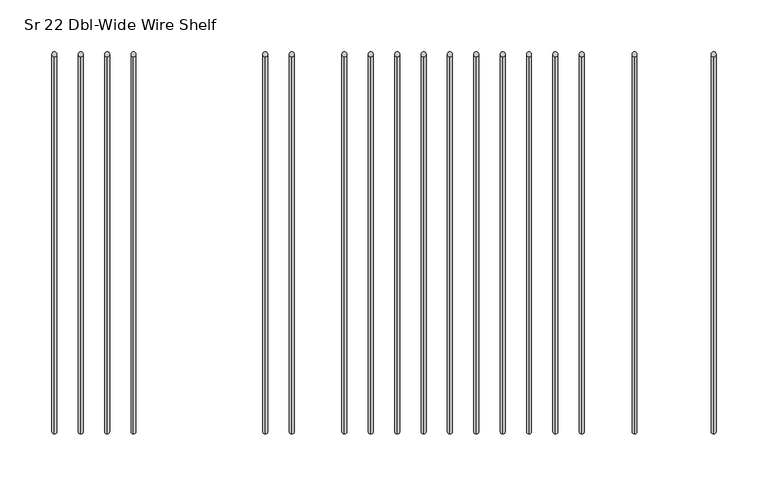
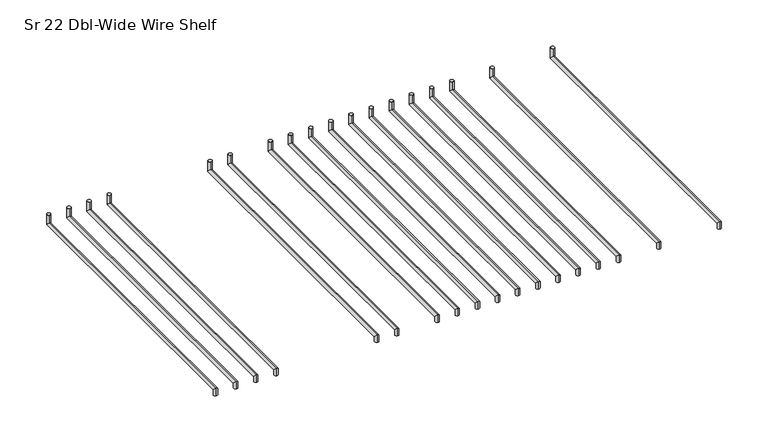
"""IFC4 building model written with IfcOpenShell, lengths in millimetres: furniture geometry, HermanMiller_Carts_CT521_CartShelf : Sr 22 Dbl-Wide Wire Shelf."""

from ifc_helpers import new_model, si_unit, frame, origin, place, context, project, spatial, circle_curve, ellipse_curve, source, transform, mapped, element, save
from ifc_brep_helpers import plane_surface, cylinder_surface, advanced_brep


def sr_22_dbl_wide_wire_shelf_5f0abe7a(model_context):
    return source(origin(), model_context, "Body", "AdvancedBrep", [
        advanced_brep(
        [(358.5223083, -206.38135, 2224.6971), (358.5223083, -211.14385, 2224.6971), (358.5223083, -206.38135, 2229.4596), (358.5223083, -211.14385, 2234.2221), (358.5223083, 157.2983379, 2229.4596), (358.5223083, 152.5358379, 2234.2221), (358.5223083, 157.2983379, 2244.7377), (358.5223083, 152.5358379, 2244.7377)],
        [
            (0, 1, circle_curve(frame((358.5223083, -208.7626, 2224.6971), z_axis=(0.0, 0.0, -1.0), x_axis=(0.0, -1.0, 0.0)), 2.38125)),
            (1, 0, circle_curve(frame((358.5223083, -208.7626, 2224.6971), z_axis=(0.0, 0.0, -1.0), x_axis=(0.0, -1.0, 0.0)), 2.38125)),
            (0, 2),
            (2, 3, ellipse_curve(frame((358.5223083, -208.7626, 2231.84085), z_axis=(0.0, -0.7071067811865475, -0.7071067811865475), x_axis=(0.0, 0.7071067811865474, -0.7071067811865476)), 3.367596, 2.38125)),
            (3, 1),
            (3, 2, ellipse_curve(frame((358.5223083, -208.7626, 2231.84085), z_axis=(0.0, -0.7071067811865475, -0.7071067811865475), x_axis=(0.0, 0.7071067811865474, -0.7071067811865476)), 3.367596, 2.38125)),
            (2, 4),
            (4, 5, ellipse_curve(frame((358.5223083, 154.9170879, 2231.84085), z_axis=(0.0, -0.7071067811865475, -0.7071067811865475), x_axis=(0.0, -0.7071067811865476, 0.7071067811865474)), 3.367596, 2.38125)),
            (5, 3),
            (5, 4, ellipse_curve(frame((358.5223083, 154.9170879, 2231.84085), z_axis=(0.0, -0.7071067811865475, -0.7071067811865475), x_axis=(0.0, -0.7071067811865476, 0.7071067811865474)), 3.367596, 2.38125)),
            (6, 7, circle_curve(frame((358.5223083, 154.9170879, 2244.7377), z_axis=(0.0, 0.0, 1.0), x_axis=(0.0, -1.0, 0.0)), 2.38125)),
            (7, 6, circle_curve(frame((358.5223083, 154.9170879, 2244.7377), z_axis=(0.0, 0.0, 1.0), x_axis=(0.0, -1.0, 0.0)), 2.38125)),
            (4, 6),
            (7, 5),
        ],
        [
            plane_surface(frame((358.5223083, -208.7626, 2224.6971), z_axis=(0.0, 0.0, -1.0), x_axis=(1.0, 0.0, 0.0))),
            cylinder_surface(frame((358.5223083, -208.7626, 2224.6971), z_axis=(0.0, 0.0, -1.0), x_axis=(0.0, -1.0, 0.0)), 2.38125),
            cylinder_surface(frame((358.5223083, -208.7626, 2231.84085), z_axis=(0.0, -1.0, 0.0), x_axis=(0.0, 0.0, 1.0)), 2.38125),
            plane_surface(frame((358.5223083, 154.9170879, 2244.7377), z_axis=(0.0, 0.0, 1.0), x_axis=(1.0, 0.0, 0.0))),
            cylinder_surface(frame((358.5223083, 154.9170879, 2231.84085), z_axis=(0.0, 0.0, -1.0), x_axis=(0.0, -1.0, 0.0)), 2.38125),
        ],
        [
            (0, [[1, 2]]),
            (1, [[-1, 3, 4, 5]]),
            (1, [[-2, -5, 6, -3]]),
            (2, [[-4, 7, 8, 9]]),
            (2, [[-6, -9, 10, -7]]),
            (3, [[11, 12]]),
            (4, [[-8, 13, -12, 14]]),
            (4, [[-10, -14, -11, -13]]),
        ],
    ),
        advanced_brep(
        [(282.3223083, -206.38135, 2224.6971), (282.3223083, -211.14385, 2224.6971), (282.3223083, -206.38135, 2229.4596), (282.3223083, -211.14385, 2234.2221), (282.3223083, 157.2983379, 2229.4596), (282.3223083, 152.5358379, 2234.2221), (282.3223083, 157.2983379, 2244.7377), (282.3223083, 152.5358379, 2244.7377)],
        [
            (0, 1, circle_curve(frame((282.3223083, -208.7626, 2224.6971), z_axis=(0.0, 0.0, -1.0), x_axis=(0.0, -1.0, 0.0)), 2.38125)),
            (1, 0, circle_curve(frame((282.3223083, -208.7626, 2224.6971), z_axis=(0.0, 0.0, -1.0), x_axis=(0.0, -1.0, 0.0)), 2.38125)),
            (0, 2),
            (2, 3, ellipse_curve(frame((282.3223083, -208.7626, 2231.84085), z_axis=(0.0, -0.7071067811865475, -0.7071067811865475), x_axis=(0.0, 0.7071067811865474, -0.7071067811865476)), 3.367596, 2.38125)),
            (3, 1),
            (3, 2, ellipse_curve(frame((282.3223083, -208.7626, 2231.84085), z_axis=(0.0, -0.7071067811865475, -0.7071067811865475), x_axis=(0.0, 0.7071067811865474, -0.7071067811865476)), 3.367596, 2.38125)),
            (2, 4),
            (4, 5, ellipse_curve(frame((282.3223083, 154.9170879, 2231.84085), z_axis=(0.0, -0.7071067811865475, -0.7071067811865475), x_axis=(0.0, -0.7071067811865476, 0.7071067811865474)), 3.367596, 2.38125)),
            (5, 3),
            (5, 4, ellipse_curve(frame((282.3223083, 154.9170879, 2231.84085), z_axis=(0.0, -0.7071067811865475, -0.7071067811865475), x_axis=(0.0, -0.7071067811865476, 0.7071067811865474)), 3.367596, 2.38125)),
            (6, 7, circle_curve(frame((282.3223083, 154.9170879, 2244.7377), z_axis=(0.0, 0.0, 1.0), x_axis=(0.0, -1.0, 0.0)), 2.38125)),
            (7, 6, circle_curve(frame((282.3223083, 154.9170879, 2244.7377), z_axis=(0.0, 0.0, 1.0), x_axis=(0.0, -1.0, 0.0)), 2.38125)),
            (4, 6),
            (7, 5),
        ],
        [
            plane_surface(frame((282.3223083, -208.7626, 2224.6971), z_axis=(0.0, 0.0, -1.0), x_axis=(1.0, 0.0, 0.0))),
            cylinder_surface(frame((282.3223083, -208.7626, 2224.6971), z_axis=(0.0, 0.0, -1.0), x_axis=(0.0, -1.0, 0.0)), 2.38125),
            cylinder_surface(frame((282.3223083, -208.7626, 2231.84085), z_axis=(0.0, -1.0, 0.0), x_axis=(0.0, 0.0, 1.0)), 2.38125),
            plane_surface(frame((282.3223083, 154.9170879, 2244.7377), z_axis=(0.0, 0.0, 1.0), x_axis=(1.0, 0.0, 0.0))),
            cylinder_surface(frame((282.3223083, 154.9170879, 2231.84085), z_axis=(0.0, 0.0, -1.0), x_axis=(0.0, -1.0, 0.0)), 2.38125),
        ],
        [
            (0, [[1, 2]]),
            (1, [[-1, 3, 4, 5]]),
            (1, [[-2, -5, 6, -3]]),
            (2, [[-4, 7, 8, 9]]),
            (2, [[-6, -9, 10, -7]]),
            (3, [[11, 12]]),
            (4, [[-8, 13, -12, 14]]),
            (4, [[-10, -14, -11, -13]]),
        ],
    ),
        advanced_brep(
        [(28.3223083, -206.38135, 2224.6971), (28.3223083, -211.14385, 2224.6971), (28.3223083, -206.38135, 2229.4596), (28.3223083, -211.14385, 2234.2221), (28.3223083, 157.2983379, 2229.4596), (28.3223083, 152.5358379, 2234.2221), (28.3223083, 157.2983379, 2244.7377), (28.3223083, 152.5358379, 2244.7377)],
        [
            (0, 1, circle_curve(frame((28.3223083, -208.7626, 2224.6971), z_axis=(0.0, 0.0, -1.0), x_axis=(0.0, -1.0, 0.0)), 2.38125)),
            (1, 0, circle_curve(frame((28.3223083, -208.7626, 2224.6971), z_axis=(0.0, 0.0, -1.0), x_axis=(0.0, -1.0, 0.0)), 2.38125)),
            (0, 2),
            (2, 3, ellipse_curve(frame((28.3223083, -208.7626, 2231.84085), z_axis=(0.0, -0.7071067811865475, -0.7071067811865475), x_axis=(0.0, 0.7071067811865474, -0.7071067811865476)), 3.367596, 2.38125)),
            (3, 1),
            (3, 2, ellipse_curve(frame((28.3223083, -208.7626, 2231.84085), z_axis=(0.0, -0.7071067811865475, -0.7071067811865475), x_axis=(0.0, 0.7071067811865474, -0.7071067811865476)), 3.367596, 2.38125)),
            (2, 4),
            (4, 5, ellipse_curve(frame((28.3223083, 154.9170879, 2231.84085), z_axis=(0.0, -0.7071067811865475, -0.7071067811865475), x_axis=(0.0, -0.7071067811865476, 0.7071067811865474)), 3.367596, 2.38125)),
            (5, 3),
            (5, 4, ellipse_curve(frame((28.3223083, 154.9170879, 2231.84085), z_axis=(0.0, -0.7071067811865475, -0.7071067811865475), x_axis=(0.0, -0.7071067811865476, 0.7071067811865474)), 3.367596, 2.38125)),
            (6, 7, circle_curve(frame((28.3223083, 154.9170879, 2244.7377), z_axis=(0.0, 0.0, 1.0), x_axis=(0.0, -1.0, 0.0)), 2.38125)),
            (7, 6, circle_curve(frame((28.3223083, 154.9170879, 2244.7377), z_axis=(0.0, 0.0, 1.0), x_axis=(0.0, -1.0, 0.0)), 2.38125)),
            (4, 6),
            (7, 5),
        ],
        [
            plane_surface(frame((28.3223083, -208.7626, 2224.6971), z_axis=(0.0, 0.0, -1.0), x_axis=(1.0, 0.0, 0.0))),
            cylinder_surface(frame((28.3223083, -208.7626, 2224.6971), z_axis=(0.0, 0.0, -1.0), x_axis=(0.0, -1.0, 0.0)), 2.38125),
            cylinder_surface(frame((28.3223083, -208.7626, 2231.84085), z_axis=(0.0, -1.0, 0.0), x_axis=(0.0, 0.0, 1.0)), 2.38125),
            plane_surface(frame((28.3223083, 154.9170879, 2244.7377), z_axis=(0.0, 0.0, 1.0), x_axis=(1.0, 0.0, 0.0))),
            cylinder_surface(frame((28.3223083, 154.9170879, 2231.84085), z_axis=(0.0, 0.0, -1.0), x_axis=(0.0, -1.0, 0.0)), 2.38125),
        ],
        [
            (0, [[1, 2]]),
            (1, [[-1, 3, 4, 5]]),
            (1, [[-2, -5, 6, -3]]),
            (2, [[-4, 7, 8, 9]]),
            (2, [[-6, -9, 10, -7]]),
            (3, [[11, 12]]),
            (4, [[-8, 13, -12, 14]]),
            (4, [[-10, -14, -11, -13]]),
        ],
    ),
        advanced_brep(
        [(-47.8776917, -206.38135, 2224.6971), (-47.8776917, -211.14385, 2224.6971), (-47.8776917, -206.38135, 2229.4596), (-47.8776917, -211.14385, 2234.2221), (-47.8776917, 157.2983379, 2229.4596), (-47.8776917, 152.5358379, 2234.2221), (-47.8776917, 157.2983379, 2244.7377), (-47.8776917, 152.5358379, 2244.7377)],
        [
            (0, 1, circle_curve(frame((-47.8776917, -208.7626, 2224.6971), z_axis=(0.0, 0.0, -1.0), x_axis=(0.0, -1.0, 0.0)), 2.38125)),
            (1, 0, circle_curve(frame((-47.8776917, -208.7626, 2224.6971), z_axis=(0.0, 0.0, -1.0), x_axis=(0.0, -1.0, 0.0)), 2.38125)),
            (0, 2),
            (2, 3, ellipse_curve(frame((-47.8776917, -208.7626, 2231.84085), z_axis=(0.0, -0.7071067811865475, -0.7071067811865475), x_axis=(0.0, 0.7071067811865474, -0.7071067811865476)), 3.367596, 2.38125)),
            (3, 1),
            (3, 2, ellipse_curve(frame((-47.8776917, -208.7626, 2231.84085), z_axis=(0.0, -0.7071067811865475, -0.7071067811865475), x_axis=(0.0, 0.7071067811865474, -0.7071067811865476)), 3.367596, 2.38125)),
            (2, 4),
            (4, 5, ellipse_curve(frame((-47.8776917, 154.9170879, 2231.84085), z_axis=(0.0, -0.7071067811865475, -0.7071067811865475), x_axis=(0.0, -0.7071067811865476, 0.7071067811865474)), 3.367596, 2.38125)),
            (5, 3),
            (5, 4, ellipse_curve(frame((-47.8776917, 154.9170879, 2231.84085), z_axis=(0.0, -0.7071067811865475, -0.7071067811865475), x_axis=(0.0, -0.7071067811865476, 0.7071067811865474)), 3.367596, 2.38125)),
            (6, 7, circle_curve(frame((-47.8776917, 154.9170879, 2244.7377), z_axis=(0.0, 0.0, 1.0), x_axis=(0.0, -1.0, 0.0)), 2.38125)),
            (7, 6, circle_curve(frame((-47.8776917, 154.9170879, 2244.7377), z_axis=(0.0, 0.0, 1.0), x_axis=(0.0, -1.0, 0.0)), 2.38125)),
            (4, 6),
            (7, 5),
        ],
        [
            plane_surface(frame((-47.8776917, -208.7626, 2224.6971), z_axis=(0.0, 0.0, -1.0), x_axis=(1.0, 0.0, 0.0))),
            cylinder_surface(frame((-47.8776917, -208.7626, 2224.6971), z_axis=(0.0, 0.0, -1.0), x_axis=(0.0, -1.0, 0.0)), 2.38125),
            cylinder_surface(frame((-47.8776917, -208.7626, 2231.84085), z_axis=(0.0, -1.0, 0.0), x_axis=(0.0, 0.0, 1.0)), 2.38125),
            plane_surface(frame((-47.8776917, 154.9170879, 2244.7377), z_axis=(0.0, 0.0, 1.0), x_axis=(1.0, 0.0, 0.0))),
            cylinder_surface(frame((-47.8776917, 154.9170879, 2231.84085), z_axis=(0.0, 0.0, -1.0), x_axis=(0.0, -1.0, 0.0)), 2.38125),
        ],
        [
            (0, [[1, 2]]),
            (1, [[-1, 3, 4, 5]]),
            (1, [[-2, -5, 6, -3]]),
            (2, [[-4, 7, 8, 9]]),
            (2, [[-6, -9, 10, -7]]),
            (3, [[11, 12]]),
            (4, [[-8, 13, -12, 14]]),
            (4, [[-10, -14, -11, -13]]),
        ],
    ),
        advanced_brep(
        [(-73.2776917, -206.38135, 2224.6971), (-73.2776917, -211.14385, 2224.6971), (-73.2776917, -206.38135, 2229.4596), (-73.2776917, -211.14385, 2234.2221), (-73.2776917, 157.2983379, 2229.4596), (-73.2776917, 152.5358379, 2234.2221), (-73.2776917, 157.2983379, 2244.7377), (-73.2776917, 152.5358379, 2244.7377)],
        [
            (0, 1, circle_curve(frame((-73.2776917, -208.7626, 2224.6971), z_axis=(0.0, 0.0, -1.0), x_axis=(0.0, -1.0, 0.0)), 2.38125)),
            (1, 0, circle_curve(frame((-73.2776917, -208.7626, 2224.6971), z_axis=(0.0, 0.0, -1.0), x_axis=(0.0, -1.0, 0.0)), 2.38125)),
            (0, 2),
            (2, 3, ellipse_curve(frame((-73.2776917, -208.7626, 2231.84085), z_axis=(0.0, -0.7071067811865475, -0.7071067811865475), x_axis=(0.0, 0.7071067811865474, -0.7071067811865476)), 3.367596, 2.38125)),
            (3, 1),
            (3, 2, ellipse_curve(frame((-73.2776917, -208.7626, 2231.84085), z_axis=(0.0, -0.7071067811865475, -0.7071067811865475), x_axis=(0.0, 0.7071067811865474, -0.7071067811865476)), 3.367596, 2.38125)),
            (2, 4),
            (4, 5, ellipse_curve(frame((-73.2776917, 154.9170879, 2231.84085), z_axis=(0.0, -0.7071067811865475, -0.7071067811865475), x_axis=(0.0, -0.7071067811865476, 0.7071067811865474)), 3.367596, 2.38125)),
            (5, 3),
            (5, 4, ellipse_curve(frame((-73.2776917, 154.9170879, 2231.84085), z_axis=(0.0, -0.7071067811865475, -0.7071067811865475), x_axis=(0.0, -0.7071067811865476, 0.7071067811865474)), 3.367596, 2.38125)),
            (6, 7, circle_curve(frame((-73.2776917, 154.9170879, 2244.7377), z_axis=(0.0, 0.0, 1.0), x_axis=(0.0, -1.0, 0.0)), 2.38125)),
            (7, 6, circle_curve(frame((-73.2776917, 154.9170879, 2244.7377), z_axis=(0.0, 0.0, 1.0), x_axis=(0.0, -1.0, 0.0)), 2.38125)),
            (4, 6),
            (7, 5),
        ],
        [
            plane_surface(frame((-73.2776917, -208.7626, 2224.6971), z_axis=(0.0, 0.0, -1.0), x_axis=(1.0, 0.0, 0.0))),
            cylinder_surface(frame((-73.2776917, -208.7626, 2224.6971), z_axis=(0.0, 0.0, -1.0), x_axis=(0.0, -1.0, 0.0)), 2.38125),
            cylinder_surface(frame((-73.2776917, -208.7626, 2231.84085), z_axis=(0.0, -1.0, 0.0), x_axis=(0.0, 0.0, 1.0)), 2.38125),
            plane_surface(frame((-73.2776917, 154.9170879, 2244.7377), z_axis=(0.0, 0.0, 1.0), x_axis=(1.0, 0.0, 0.0))),
            cylinder_surface(frame((-73.2776917, 154.9170879, 2231.84085), z_axis=(0.0, 0.0, -1.0), x_axis=(0.0, -1.0, 0.0)), 2.38125),
        ],
        [
            (0, [[1, 2]]),
            (1, [[-1, 3, 4, 5]]),
            (1, [[-2, -5, 6, -3]]),
            (2, [[-4, 7, 8, 9]]),
            (2, [[-6, -9, 10, -7]]),
            (3, [[11, 12]]),
            (4, [[-8, 13, -12, 14]]),
            (4, [[-10, -14, -11, -13]]),
        ],
    ),
        advanced_brep(
        [(2.9223083, -206.38135, 2224.6971), (2.9223083, -211.14385, 2224.6971), (2.9223083, -206.38135, 2229.4596), (2.9223083, -211.14385, 2234.2221), (2.9223083, 157.2983379, 2229.4596), (2.9223083, 152.5358379, 2234.2221), (2.9223083, 157.2983379, 2244.7377), (2.9223083, 152.5358379, 2244.7377)],
        [
            (0, 1, circle_curve(frame((2.9223083, -208.7626, 2224.6971), z_axis=(0.0, 0.0, -1.0), x_axis=(0.0, -1.0, 0.0)), 2.38125)),
            (1, 0, circle_curve(frame((2.9223083, -208.7626, 2224.6971), z_axis=(0.0, 0.0, -1.0), x_axis=(0.0, -1.0, 0.0)), 2.38125)),
            (0, 2),
            (2, 3, ellipse_curve(frame((2.9223083, -208.7626, 2231.84085), z_axis=(0.0, -0.7071067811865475, -0.7071067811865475), x_axis=(0.0, 0.7071067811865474, -0.7071067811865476)), 3.367596, 2.38125)),
            (3, 1),
            (3, 2, ellipse_curve(frame((2.9223083, -208.7626, 2231.84085), z_axis=(0.0, -0.7071067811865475, -0.7071067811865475), x_axis=(0.0, 0.7071067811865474, -0.7071067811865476)), 3.367596, 2.38125)),
            (2, 4),
            (4, 5, ellipse_curve(frame((2.9223083, 154.9170879, 2231.84085), z_axis=(0.0, -0.7071067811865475, -0.7071067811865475), x_axis=(0.0, -0.7071067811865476, 0.7071067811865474)), 3.367596, 2.38125)),
            (5, 3),
            (5, 4, ellipse_curve(frame((2.9223083, 154.9170879, 2231.84085), z_axis=(0.0, -0.7071067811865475, -0.7071067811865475), x_axis=(0.0, -0.7071067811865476, 0.7071067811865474)), 3.367596, 2.38125)),
            (6, 7, circle_curve(frame((2.9223083, 154.9170879, 2244.7377), z_axis=(0.0, 0.0, 1.0), x_axis=(0.0, -1.0, 0.0)), 2.38125)),
            (7, 6, circle_curve(frame((2.9223083, 154.9170879, 2244.7377), z_axis=(0.0, 0.0, 1.0), x_axis=(0.0, -1.0, 0.0)), 2.38125)),
            (4, 6),
            (7, 5),
        ],
        [
            plane_surface(frame((2.9223083, -208.7626, 2224.6971), z_axis=(0.0, 0.0, -1.0), x_axis=(1.0, 0.0, 0.0))),
            cylinder_surface(frame((2.9223083, -208.7626, 2224.6971), z_axis=(0.0, 0.0, -1.0), x_axis=(0.0, -1.0, 0.0)), 2.38125),
            cylinder_surface(frame((2.9223083, -208.7626, 2231.84085), z_axis=(0.0, -1.0, 0.0), x_axis=(0.0, 0.0, 1.0)), 2.38125),
            plane_surface(frame((2.9223083, 154.9170879, 2244.7377), z_axis=(0.0, 0.0, 1.0), x_axis=(1.0, 0.0, 0.0))),
            cylinder_surface(frame((2.9223083, 154.9170879, 2231.84085), z_axis=(0.0, 0.0, -1.0), x_axis=(0.0, -1.0, 0.0)), 2.38125),
        ],
        [
            (0, [[1, 2]]),
            (1, [[-1, 3, 4, 5]]),
            (1, [[-2, -5, 6, -3]]),
            (2, [[-4, 7, 8, 9]]),
            (2, [[-6, -9, 10, -7]]),
            (3, [[11, 12]]),
            (4, [[-8, 13, -12, 14]]),
            (4, [[-10, -14, -11, -13]]),
        ],
    ),
        advanced_brep(
        [(53.7223083, -206.38135, 2224.6971), (53.7223083, -211.14385, 2224.6971), (53.7223083, -206.38135, 2229.4596), (53.7223083, -211.14385, 2234.2221), (53.7223083, 157.2983379, 2229.4596), (53.7223083, 152.5358379, 2234.2221), (53.7223083, 157.2983379, 2244.7377), (53.7223083, 152.5358379, 2244.7377)],
        [
            (0, 1, circle_curve(frame((53.7223083, -208.7626, 2224.6971), z_axis=(0.0, 0.0, -1.0), x_axis=(0.0, -1.0, 0.0)), 2.38125)),
            (1, 0, circle_curve(frame((53.7223083, -208.7626, 2224.6971), z_axis=(0.0, 0.0, -1.0), x_axis=(0.0, -1.0, 0.0)), 2.38125)),
            (0, 2),
            (2, 3, ellipse_curve(frame((53.7223083, -208.7626, 2231.84085), z_axis=(0.0, -0.7071067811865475, -0.7071067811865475), x_axis=(0.0, 0.7071067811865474, -0.7071067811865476)), 3.367596, 2.38125)),
            (3, 1),
            (3, 2, ellipse_curve(frame((53.7223083, -208.7626, 2231.84085), z_axis=(0.0, -0.7071067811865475, -0.7071067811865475), x_axis=(0.0, 0.7071067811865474, -0.7071067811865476)), 3.367596, 2.38125)),
            (2, 4),
            (4, 5, ellipse_curve(frame((53.7223083, 154.9170879, 2231.84085), z_axis=(0.0, -0.7071067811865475, -0.7071067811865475), x_axis=(0.0, -0.7071067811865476, 0.7071067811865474)), 3.367596, 2.38125)),
            (5, 3),
            (5, 4, ellipse_curve(frame((53.7223083, 154.9170879, 2231.84085), z_axis=(0.0, -0.7071067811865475, -0.7071067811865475), x_axis=(0.0, -0.7071067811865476, 0.7071067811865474)), 3.367596, 2.38125)),
            (6, 7, circle_curve(frame((53.7223083, 154.9170879, 2244.7377), z_axis=(0.0, 0.0, 1.0), x_axis=(0.0, -1.0, 0.0)), 2.38125)),
            (7, 6, circle_curve(frame((53.7223083, 154.9170879, 2244.7377), z_axis=(0.0, 0.0, 1.0), x_axis=(0.0, -1.0, 0.0)), 2.38125)),
            (4, 6),
            (7, 5),
        ],
        [
            plane_surface(frame((53.7223083, -208.7626, 2224.6971), z_axis=(0.0, 0.0, -1.0), x_axis=(1.0, 0.0, 0.0))),
            cylinder_surface(frame((53.7223083, -208.7626, 2224.6971), z_axis=(0.0, 0.0, -1.0), x_axis=(0.0, -1.0, 0.0)), 2.38125),
            cylinder_surface(frame((53.7223083, -208.7626, 2231.84085), z_axis=(0.0, -1.0, 0.0), x_axis=(0.0, 0.0, 1.0)), 2.38125),
            plane_surface(frame((53.7223083, 154.9170879, 2244.7377), z_axis=(0.0, 0.0, 1.0), x_axis=(1.0, 0.0, 0.0))),
            cylinder_surface(frame((53.7223083, 154.9170879, 2231.84085), z_axis=(0.0, 0.0, -1.0), x_axis=(0.0, -1.0, 0.0)), 2.38125),
        ],
        [
            (0, [[1, 2]]),
            (1, [[-1, 3, 4, 5]]),
            (1, [[-2, -5, 6, -3]]),
            (2, [[-4, 7, 8, 9]]),
            (2, [[-6, -9, 10, -7]]),
            (3, [[11, 12]]),
            (4, [[-8, 13, -12, 14]]),
            (4, [[-10, -14, -11, -13]]),
        ],
    ),
        advanced_brep(
        [(79.1223083, -206.38135, 2224.6971), (79.1223083, -211.14385, 2224.6971), (79.1223083, -206.38135, 2229.4596), (79.1223083, -211.14385, 2234.2221), (79.1223083, 157.2983379, 2229.4596), (79.1223083, 152.5358379, 2234.2221), (79.1223083, 157.2983379, 2244.7377), (79.1223083, 152.5358379, 2244.7377)],
        [
            (0, 1, circle_curve(frame((79.1223083, -208.7626, 2224.6971), z_axis=(0.0, 0.0, -1.0), x_axis=(0.0, -1.0, 0.0)), 2.38125)),
            (1, 0, circle_curve(frame((79.1223083, -208.7626, 2224.6971), z_axis=(0.0, 0.0, -1.0), x_axis=(0.0, -1.0, 0.0)), 2.38125)),
            (0, 2),
            (2, 3, ellipse_curve(frame((79.1223083, -208.7626, 2231.84085), z_axis=(0.0, -0.7071067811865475, -0.7071067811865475), x_axis=(0.0, 0.7071067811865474, -0.7071067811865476)), 3.367596, 2.38125)),
            (3, 1),
            (3, 2, ellipse_curve(frame((79.1223083, -208.7626, 2231.84085), z_axis=(0.0, -0.7071067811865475, -0.7071067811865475), x_axis=(0.0, 0.7071067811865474, -0.7071067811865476)), 3.367596, 2.38125)),
            (2, 4),
            (4, 5, ellipse_curve(frame((79.1223083, 154.9170879, 2231.84085), z_axis=(0.0, -0.7071067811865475, -0.7071067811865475), x_axis=(0.0, -0.7071067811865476, 0.7071067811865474)), 3.367596, 2.38125)),
            (5, 3),
            (5, 4, ellipse_curve(frame((79.1223083, 154.9170879, 2231.84085), z_axis=(0.0, -0.7071067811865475, -0.7071067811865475), x_axis=(0.0, -0.7071067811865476, 0.7071067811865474)), 3.367596, 2.38125)),
            (6, 7, circle_curve(frame((79.1223083, 154.9170879, 2244.7377), z_axis=(0.0, 0.0, 1.0), x_axis=(0.0, -1.0, 0.0)), 2.38125)),
            (7, 6, circle_curve(frame((79.1223083, 154.9170879, 2244.7377), z_axis=(0.0, 0.0, 1.0), x_axis=(0.0, -1.0, 0.0)), 2.38125)),
            (4, 6),
            (7, 5),
        ],
        [
            plane_surface(frame((79.1223083, -208.7626, 2224.6971), z_axis=(0.0, 0.0, -1.0), x_axis=(1.0, 0.0, 0.0))),
            cylinder_surface(frame((79.1223083, -208.7626, 2224.6971), z_axis=(0.0, 0.0, -1.0), x_axis=(0.0, -1.0, 0.0)), 2.38125),
            cylinder_surface(frame((79.1223083, -208.7626, 2231.84085), z_axis=(0.0, -1.0, 0.0), x_axis=(0.0, 0.0, 1.0)), 2.38125),
            plane_surface(frame((79.1223083, 154.9170879, 2244.7377), z_axis=(0.0, 0.0, 1.0), x_axis=(1.0, 0.0, 0.0))),
            cylinder_surface(frame((79.1223083, 154.9170879, 2231.84085), z_axis=(0.0, 0.0, -1.0), x_axis=(0.0, -1.0, 0.0)), 2.38125),
        ],
        [
            (0, [[1, 2]]),
            (1, [[-1, 3, 4, 5]]),
            (1, [[-2, -5, 6, -3]]),
            (2, [[-4, 7, 8, 9]]),
            (2, [[-6, -9, 10, -7]]),
            (3, [[11, 12]]),
            (4, [[-8, 13, -12, 14]]),
            (4, [[-10, -14, -11, -13]]),
        ],
    ),
        advanced_brep(
        [(104.5223083, -206.38135, 2224.6971), (104.5223083, -211.14385, 2224.6971), (104.5223083, -206.38135, 2229.4596), (104.5223083, -211.14385, 2234.2221), (104.5223083, 157.2983379, 2229.4596), (104.5223083, 152.5358379, 2234.2221), (104.5223083, 157.2983379, 2244.7377), (104.5223083, 152.5358379, 2244.7377)],
        [
            (0, 1, circle_curve(frame((104.5223083, -208.7626, 2224.6971), z_axis=(0.0, 0.0, -1.0), x_axis=(0.0, -1.0, 0.0)), 2.38125)),
            (1, 0, circle_curve(frame((104.5223083, -208.7626, 2224.6971), z_axis=(0.0, 0.0, -1.0), x_axis=(0.0, -1.0, 0.0)), 2.38125)),
            (0, 2),
            (2, 3, ellipse_curve(frame((104.5223083, -208.7626, 2231.84085), z_axis=(0.0, -0.7071067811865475, -0.7071067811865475), x_axis=(0.0, 0.7071067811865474, -0.7071067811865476)), 3.367596, 2.38125)),
            (3, 1),
            (3, 2, ellipse_curve(frame((104.5223083, -208.7626, 2231.84085), z_axis=(0.0, -0.7071067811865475, -0.7071067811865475), x_axis=(0.0, 0.7071067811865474, -0.7071067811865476)), 3.367596, 2.38125)),
            (2, 4),
            (4, 5, ellipse_curve(frame((104.5223083, 154.9170879, 2231.84085), z_axis=(0.0, -0.7071067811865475, -0.7071067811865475), x_axis=(0.0, -0.7071067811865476, 0.7071067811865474)), 3.367596, 2.38125)),
            (5, 3),
            (5, 4, ellipse_curve(frame((104.5223083, 154.9170879, 2231.84085), z_axis=(0.0, -0.7071067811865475, -0.7071067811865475), x_axis=(0.0, -0.7071067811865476, 0.7071067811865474)), 3.367596, 2.38125)),
            (6, 7, circle_curve(frame((104.5223083, 154.9170879, 2244.7377), z_axis=(0.0, 0.0, 1.0), x_axis=(0.0, -1.0, 0.0)), 2.38125)),
            (7, 6, circle_curve(frame((104.5223083, 154.9170879, 2244.7377), z_axis=(0.0, 0.0, 1.0), x_axis=(0.0, -1.0, 0.0)), 2.38125)),
            (4, 6),
            (7, 5),
        ],
        [
            plane_surface(frame((104.5223083, -208.7626, 2224.6971), z_axis=(0.0, 0.0, -1.0), x_axis=(1.0, 0.0, 0.0))),
            cylinder_surface(frame((104.5223083, -208.7626, 2224.6971), z_axis=(0.0, 0.0, -1.0), x_axis=(0.0, -1.0, 0.0)), 2.38125),
            cylinder_surface(frame((104.5223083, -208.7626, 2231.84085), z_axis=(0.0, -1.0, 0.0), x_axis=(0.0, 0.0, 1.0)), 2.38125),
            plane_surface(frame((104.5223083, 154.9170879, 2244.7377), z_axis=(0.0, 0.0, 1.0), x_axis=(1.0, 0.0, 0.0))),
            cylinder_surface(frame((104.5223083, 154.9170879, 2231.84085), z_axis=(0.0, 0.0, -1.0), x_axis=(0.0, -1.0, 0.0)), 2.38125),
        ],
        [
            (0, [[1, 2]]),
            (1, [[-1, 3, 4, 5]]),
            (1, [[-2, -5, 6, -3]]),
            (2, [[-4, 7, 8, 9]]),
            (2, [[-6, -9, 10, -7]]),
            (3, [[11, 12]]),
            (4, [[-8, 13, -12, 14]]),
            (4, [[-10, -14, -11, -13]]),
        ],
    ),
        advanced_brep(
        [(129.9223083, -206.38135, 2224.6971), (129.9223083, -211.14385, 2224.6971), (129.9223083, -206.38135, 2229.4596), (129.9223083, -211.14385, 2234.2221), (129.9223083, 157.2983379, 2229.4596), (129.9223083, 152.5358379, 2234.2221), (129.9223083, 157.2983379, 2244.7377), (129.9223083, 152.5358379, 2244.7377)],
        [
            (0, 1, circle_curve(frame((129.9223083, -208.7626, 2224.6971), z_axis=(0.0, 0.0, -1.0), x_axis=(0.0, -1.0, 0.0)), 2.38125)),
            (1, 0, circle_curve(frame((129.9223083, -208.7626, 2224.6971), z_axis=(0.0, 0.0, -1.0), x_axis=(0.0, -1.0, 0.0)), 2.38125)),
            (0, 2),
            (2, 3, ellipse_curve(frame((129.9223083, -208.7626, 2231.84085), z_axis=(0.0, -0.7071067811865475, -0.7071067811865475), x_axis=(0.0, 0.7071067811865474, -0.7071067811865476)), 3.367596, 2.38125)),
            (3, 1),
            (3, 2, ellipse_curve(frame((129.9223083, -208.7626, 2231.84085), z_axis=(0.0, -0.7071067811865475, -0.7071067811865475), x_axis=(0.0, 0.7071067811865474, -0.7071067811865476)), 3.367596, 2.38125)),
            (2, 4),
            (4, 5, ellipse_curve(frame((129.9223083, 154.9170879, 2231.84085), z_axis=(0.0, -0.7071067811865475, -0.7071067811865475), x_axis=(0.0, -0.7071067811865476, 0.7071067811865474)), 3.367596, 2.38125)),
            (5, 3),
            (5, 4, ellipse_curve(frame((129.9223083, 154.9170879, 2231.84085), z_axis=(0.0, -0.7071067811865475, -0.7071067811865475), x_axis=(0.0, -0.7071067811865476, 0.7071067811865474)), 3.367596, 2.38125)),
            (6, 7, circle_curve(frame((129.9223083, 154.9170879, 2244.7377), z_axis=(0.0, 0.0, 1.0), x_axis=(0.0, -1.0, 0.0)), 2.38125)),
            (7, 6, circle_curve(frame((129.9223083, 154.9170879, 2244.7377), z_axis=(0.0, 0.0, 1.0), x_axis=(0.0, -1.0, 0.0)), 2.38125)),
            (4, 6),
            (7, 5),
        ],
        [
            plane_surface(frame((129.9223083, -208.7626, 2224.6971), z_axis=(0.0, 0.0, -1.0), x_axis=(1.0, 0.0, 0.0))),
            cylinder_surface(frame((129.9223083, -208.7626, 2224.6971), z_axis=(0.0, 0.0, -1.0), x_axis=(0.0, -1.0, 0.0)), 2.38125),
            cylinder_surface(frame((129.9223083, -208.7626, 2231.84085), z_axis=(0.0, -1.0, 0.0), x_axis=(0.0, 0.0, 1.0)), 2.38125),
            plane_surface(frame((129.9223083, 154.9170879, 2244.7377), z_axis=(0.0, 0.0, 1.0), x_axis=(1.0, 0.0, 0.0))),
            cylinder_surface(frame((129.9223083, 154.9170879, 2231.84085), z_axis=(0.0, 0.0, -1.0), x_axis=(0.0, -1.0, 0.0)), 2.38125),
        ],
        [
            (0, [[1, 2]]),
            (1, [[-1, 3, 4, 5]]),
            (1, [[-2, -5, 6, -3]]),
            (2, [[-4, 7, 8, 9]]),
            (2, [[-6, -9, 10, -7]]),
            (3, [[11, 12]]),
            (4, [[-8, 13, -12, 14]]),
            (4, [[-10, -14, -11, -13]]),
        ],
    ),
        advanced_brep(
        [(155.3223083, -206.38135, 2224.6971), (155.3223083, -211.14385, 2224.6971), (155.3223083, -206.38135, 2229.4596), (155.3223083, -211.14385, 2234.2221), (155.3223083, 157.2983379, 2229.4596), (155.3223083, 152.5358379, 2234.2221), (155.3223083, 157.2983379, 2244.7377), (155.3223083, 152.5358379, 2244.7377)],
        [
            (0, 1, circle_curve(frame((155.3223083, -208.7626, 2224.6971), z_axis=(0.0, 0.0, -1.0), x_axis=(0.0, -1.0, 0.0)), 2.38125)),
            (1, 0, circle_curve(frame((155.3223083, -208.7626, 2224.6971), z_axis=(0.0, 0.0, -1.0), x_axis=(0.0, -1.0, 0.0)), 2.38125)),
            (0, 2),
            (2, 3, ellipse_curve(frame((155.3223083, -208.7626, 2231.84085), z_axis=(0.0, -0.7071067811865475, -0.7071067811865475), x_axis=(0.0, 0.7071067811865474, -0.7071067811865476)), 3.367596, 2.38125)),
            (3, 1),
            (3, 2, ellipse_curve(frame((155.3223083, -208.7626, 2231.84085), z_axis=(0.0, -0.7071067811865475, -0.7071067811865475), x_axis=(0.0, 0.7071067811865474, -0.7071067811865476)), 3.367596, 2.38125)),
            (2, 4),
            (4, 5, ellipse_curve(frame((155.3223083, 154.9170879, 2231.84085), z_axis=(0.0, -0.7071067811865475, -0.7071067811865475), x_axis=(0.0, -0.7071067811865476, 0.7071067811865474)), 3.367596, 2.38125)),
            (5, 3),
            (5, 4, ellipse_curve(frame((155.3223083, 154.9170879, 2231.84085), z_axis=(0.0, -0.7071067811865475, -0.7071067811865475), x_axis=(0.0, -0.7071067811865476, 0.7071067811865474)), 3.367596, 2.38125)),
            (6, 7, circle_curve(frame((155.3223083, 154.9170879, 2244.7377), z_axis=(0.0, 0.0, 1.0), x_axis=(0.0, -1.0, 0.0)), 2.38125)),
            (7, 6, circle_curve(frame((155.3223083, 154.9170879, 2244.7377), z_axis=(0.0, 0.0, 1.0), x_axis=(0.0, -1.0, 0.0)), 2.38125)),
            (4, 6),
            (7, 5),
        ],
        [
            plane_surface(frame((155.3223083, -208.7626, 2224.6971), z_axis=(0.0, 0.0, -1.0), x_axis=(1.0, 0.0, 0.0))),
            cylinder_surface(frame((155.3223083, -208.7626, 2224.6971), z_axis=(0.0, 0.0, -1.0), x_axis=(0.0, -1.0, 0.0)), 2.38125),
            cylinder_surface(frame((155.3223083, -208.7626, 2231.84085), z_axis=(0.0, -1.0, 0.0), x_axis=(0.0, 0.0, 1.0)), 2.38125),
            plane_surface(frame((155.3223083, 154.9170879, 2244.7377), z_axis=(0.0, 0.0, 1.0), x_axis=(1.0, 0.0, 0.0))),
            cylinder_surface(frame((155.3223083, 154.9170879, 2231.84085), z_axis=(0.0, 0.0, -1.0), x_axis=(0.0, -1.0, 0.0)), 2.38125),
        ],
        [
            (0, [[1, 2]]),
            (1, [[-1, 3, 4, 5]]),
            (1, [[-2, -5, 6, -3]]),
            (2, [[-4, 7, 8, 9]]),
            (2, [[-6, -9, 10, -7]]),
            (3, [[11, 12]]),
            (4, [[-8, 13, -12, 14]]),
            (4, [[-10, -14, -11, -13]]),
        ],
    ),
        advanced_brep(
        [(180.7223083, -206.38135, 2224.6971), (180.7223083, -211.14385, 2224.6971), (180.7223083, -206.38135, 2229.4596), (180.7223083, -211.14385, 2234.2221), (180.7223083, 157.2983379, 2229.4596), (180.7223083, 152.5358379, 2234.2221), (180.7223083, 157.2983379, 2244.7377), (180.7223083, 152.5358379, 2244.7377)],
        [
            (0, 1, circle_curve(frame((180.7223083, -208.7626, 2224.6971), z_axis=(0.0, 0.0, -1.0), x_axis=(0.0, -1.0, 0.0)), 2.38125)),
            (1, 0, circle_curve(frame((180.7223083, -208.7626, 2224.6971), z_axis=(0.0, 0.0, -1.0), x_axis=(0.0, -1.0, 0.0)), 2.38125)),
            (0, 2),
            (2, 3, ellipse_curve(frame((180.7223083, -208.7626, 2231.84085), z_axis=(0.0, -0.7071067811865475, -0.7071067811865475), x_axis=(0.0, 0.7071067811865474, -0.7071067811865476)), 3.367596, 2.38125)),
            (3, 1),
            (3, 2, ellipse_curve(frame((180.7223083, -208.7626, 2231.84085), z_axis=(0.0, -0.7071067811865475, -0.7071067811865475), x_axis=(0.0, 0.7071067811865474, -0.7071067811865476)), 3.367596, 2.38125)),
            (2, 4),
            (4, 5, ellipse_curve(frame((180.7223083, 154.9170879, 2231.84085), z_axis=(0.0, -0.7071067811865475, -0.7071067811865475), x_axis=(0.0, -0.7071067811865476, 0.7071067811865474)), 3.367596, 2.38125)),
            (5, 3),
            (5, 4, ellipse_curve(frame((180.7223083, 154.9170879, 2231.84085), z_axis=(0.0, -0.7071067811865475, -0.7071067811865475), x_axis=(0.0, -0.7071067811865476, 0.7071067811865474)), 3.367596, 2.38125)),
            (6, 7, circle_curve(frame((180.7223083, 154.9170879, 2244.7377), z_axis=(0.0, 0.0, 1.0), x_axis=(0.0, -1.0, 0.0)), 2.38125)),
            (7, 6, circle_curve(frame((180.7223083, 154.9170879, 2244.7377), z_axis=(0.0, 0.0, 1.0), x_axis=(0.0, -1.0, 0.0)), 2.38125)),
            (4, 6),
            (7, 5),
        ],
        [
            plane_surface(frame((180.7223083, -208.7626, 2224.6971), z_axis=(0.0, 0.0, -1.0), x_axis=(1.0, 0.0, 0.0))),
            cylinder_surface(frame((180.7223083, -208.7626, 2224.6971), z_axis=(0.0, 0.0, -1.0), x_axis=(0.0, -1.0, 0.0)), 2.38125),
            cylinder_surface(frame((180.7223083, -208.7626, 2231.84085), z_axis=(0.0, -1.0, 0.0), x_axis=(0.0, 0.0, 1.0)), 2.38125),
            plane_surface(frame((180.7223083, 154.9170879, 2244.7377), z_axis=(0.0, 0.0, 1.0), x_axis=(1.0, 0.0, 0.0))),
            cylinder_surface(frame((180.7223083, 154.9170879, 2231.84085), z_axis=(0.0, 0.0, -1.0), x_axis=(0.0, -1.0, 0.0)), 2.38125),
        ],
        [
            (0, [[1, 2]]),
            (1, [[-1, 3, 4, 5]]),
            (1, [[-2, -5, 6, -3]]),
            (2, [[-4, 7, 8, 9]]),
            (2, [[-6, -9, 10, -7]]),
            (3, [[11, 12]]),
            (4, [[-8, 13, -12, 14]]),
            (4, [[-10, -14, -11, -13]]),
        ],
    ),
        advanced_brep(
        [(206.1223083, -206.38135, 2224.6971), (206.1223083, -211.14385, 2224.6971), (206.1223083, -206.38135, 2229.4596), (206.1223083, -211.14385, 2234.2221), (206.1223083, 157.2983379, 2229.4596), (206.1223083, 152.5358379, 2234.2221), (206.1223083, 157.2983379, 2244.7377), (206.1223083, 152.5358379, 2244.7377)],
        [
            (0, 1, circle_curve(frame((206.1223083, -208.7626, 2224.6971), z_axis=(0.0, 0.0, -1.0), x_axis=(0.0, -1.0, 0.0)), 2.38125)),
            (1, 0, circle_curve(frame((206.1223083, -208.7626, 2224.6971), z_axis=(0.0, 0.0, -1.0), x_axis=(0.0, -1.0, 0.0)), 2.38125)),
            (0, 2),
            (2, 3, ellipse_curve(frame((206.1223083, -208.7626, 2231.84085), z_axis=(0.0, -0.7071067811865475, -0.7071067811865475), x_axis=(0.0, 0.7071067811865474, -0.7071067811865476)), 3.367596, 2.38125)),
            (3, 1),
            (3, 2, ellipse_curve(frame((206.1223083, -208.7626, 2231.84085), z_axis=(0.0, -0.7071067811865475, -0.7071067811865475), x_axis=(0.0, 0.7071067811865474, -0.7071067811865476)), 3.367596, 2.38125)),
            (2, 4),
            (4, 5, ellipse_curve(frame((206.1223083, 154.9170879, 2231.84085), z_axis=(0.0, -0.7071067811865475, -0.7071067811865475), x_axis=(0.0, -0.7071067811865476, 0.7071067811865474)), 3.367596, 2.38125)),
            (5, 3),
            (5, 4, ellipse_curve(frame((206.1223083, 154.9170879, 2231.84085), z_axis=(0.0, -0.7071067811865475, -0.7071067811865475), x_axis=(0.0, -0.7071067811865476, 0.7071067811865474)), 3.367596, 2.38125)),
            (6, 7, circle_curve(frame((206.1223083, 154.9170879, 2244.7377), z_axis=(0.0, 0.0, 1.0), x_axis=(0.0, -1.0, 0.0)), 2.38125)),
            (7, 6, circle_curve(frame((206.1223083, 154.9170879, 2244.7377), z_axis=(0.0, 0.0, 1.0), x_axis=(0.0, -1.0, 0.0)), 2.38125)),
            (4, 6),
            (7, 5),
        ],
        [
            plane_surface(frame((206.1223083, -208.7626, 2224.6971), z_axis=(0.0, 0.0, -1.0), x_axis=(1.0, 0.0, 0.0))),
            cylinder_surface(frame((206.1223083, -208.7626, 2224.6971), z_axis=(0.0, 0.0, -1.0), x_axis=(0.0, -1.0, 0.0)), 2.38125),
            cylinder_surface(frame((206.1223083, -208.7626, 2231.84085), z_axis=(0.0, -1.0, 0.0), x_axis=(0.0, 0.0, 1.0)), 2.38125),
            plane_surface(frame((206.1223083, 154.9170879, 2244.7377), z_axis=(0.0, 0.0, 1.0), x_axis=(1.0, 0.0, 0.0))),
            cylinder_surface(frame((206.1223083, 154.9170879, 2231.84085), z_axis=(0.0, 0.0, -1.0), x_axis=(0.0, -1.0, 0.0)), 2.38125),
        ],
        [
            (0, [[1, 2]]),
            (1, [[-1, 3, 4, 5]]),
            (1, [[-2, -5, 6, -3]]),
            (2, [[-4, 7, 8, 9]]),
            (2, [[-6, -9, 10, -7]]),
            (3, [[11, 12]]),
            (4, [[-8, 13, -12, 14]]),
            (4, [[-10, -14, -11, -13]]),
        ],
    ),
        advanced_brep(
        [(231.5223083, -206.38135, 2224.6971), (231.5223083, -211.14385, 2224.6971), (231.5223083, -206.38135, 2229.4596), (231.5223083, -211.14385, 2234.2221), (231.5223083, 157.2983379, 2229.4596), (231.5223083, 152.5358379, 2234.2221), (231.5223083, 157.2983379, 2244.7377), (231.5223083, 152.5358379, 2244.7377)],
        [
            (0, 1, circle_curve(frame((231.5223083, -208.7626, 2224.6971), z_axis=(0.0, 0.0, -1.0), x_axis=(0.0, -1.0, 0.0)), 2.38125)),
            (1, 0, circle_curve(frame((231.5223083, -208.7626, 2224.6971), z_axis=(0.0, 0.0, -1.0), x_axis=(0.0, -1.0, 0.0)), 2.38125)),
            (0, 2),
            (2, 3, ellipse_curve(frame((231.5223083, -208.7626, 2231.84085), z_axis=(0.0, -0.7071067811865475, -0.7071067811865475), x_axis=(0.0, 0.7071067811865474, -0.7071067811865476)), 3.367596, 2.38125)),
            (3, 1),
            (3, 2, ellipse_curve(frame((231.5223083, -208.7626, 2231.84085), z_axis=(0.0, -0.7071067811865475, -0.7071067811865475), x_axis=(0.0, 0.7071067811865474, -0.7071067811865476)), 3.367596, 2.38125)),
            (2, 4),
            (4, 5, ellipse_curve(frame((231.5223083, 154.9170879, 2231.84085), z_axis=(0.0, -0.7071067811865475, -0.7071067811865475), x_axis=(0.0, -0.7071067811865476, 0.7071067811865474)), 3.367596, 2.38125)),
            (5, 3),
            (5, 4, ellipse_curve(frame((231.5223083, 154.9170879, 2231.84085), z_axis=(0.0, -0.7071067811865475, -0.7071067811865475), x_axis=(0.0, -0.7071067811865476, 0.7071067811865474)), 3.367596, 2.38125)),
            (6, 7, circle_curve(frame((231.5223083, 154.9170879, 2244.7377), z_axis=(0.0, 0.0, 1.0), x_axis=(0.0, -1.0, 0.0)), 2.38125)),
            (7, 6, circle_curve(frame((231.5223083, 154.9170879, 2244.7377), z_axis=(0.0, 0.0, 1.0), x_axis=(0.0, -1.0, 0.0)), 2.38125)),
            (4, 6),
            (7, 5),
        ],
        [
            plane_surface(frame((231.5223083, -208.7626, 2224.6971), z_axis=(0.0, 0.0, -1.0), x_axis=(1.0, 0.0, 0.0))),
            cylinder_surface(frame((231.5223083, -208.7626, 2224.6971), z_axis=(0.0, 0.0, -1.0), x_axis=(0.0, -1.0, 0.0)), 2.38125),
            cylinder_surface(frame((231.5223083, -208.7626, 2231.84085), z_axis=(0.0, -1.0, 0.0), x_axis=(0.0, 0.0, 1.0)), 2.38125),
            plane_surface(frame((231.5223083, 154.9170879, 2244.7377), z_axis=(0.0, 0.0, 1.0), x_axis=(1.0, 0.0, 0.0))),
            cylinder_surface(frame((231.5223083, 154.9170879, 2231.84085), z_axis=(0.0, 0.0, -1.0), x_axis=(0.0, -1.0, 0.0)), 2.38125),
        ],
        [
            (0, [[1, 2]]),
            (1, [[-1, 3, 4, 5]]),
            (1, [[-2, -5, 6, -3]]),
            (2, [[-4, 7, 8, 9]]),
            (2, [[-6, -9, 10, -7]]),
            (3, [[11, 12]]),
            (4, [[-8, 13, -12, 14]]),
            (4, [[-10, -14, -11, -13]]),
        ],
    ),
        advanced_brep(
        [(-225.6776917, -206.38135, 2224.6971), (-225.6776917, -211.14385, 2224.6971), (-225.6776917, -206.38135, 2229.4596), (-225.6776917, -211.14385, 2234.2221), (-225.6776917, 157.2983379, 2229.4596), (-225.6776917, 152.5358379, 2234.2221), (-225.6776917, 157.2983379, 2244.7377), (-225.6776917, 152.5358379, 2244.7377)],
        [
            (0, 1, circle_curve(frame((-225.6776917, -208.7626, 2224.6971), z_axis=(0.0, 0.0, -1.0), x_axis=(0.0, -1.0, 0.0)), 2.38125)),
            (1, 0, circle_curve(frame((-225.6776917, -208.7626, 2224.6971), z_axis=(0.0, 0.0, -1.0), x_axis=(0.0, -1.0, 0.0)), 2.38125)),
            (0, 2),
            (2, 3, ellipse_curve(frame((-225.6776917, -208.7626, 2231.84085), z_axis=(0.0, -0.7071067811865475, -0.7071067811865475), x_axis=(0.0, 0.7071067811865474, -0.7071067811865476)), 3.367596, 2.38125)),
            (3, 1),
            (3, 2, ellipse_curve(frame((-225.6776917, -208.7626, 2231.84085), z_axis=(0.0, -0.7071067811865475, -0.7071067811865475), x_axis=(0.0, 0.7071067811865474, -0.7071067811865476)), 3.367596, 2.38125)),
            (2, 4),
            (4, 5, ellipse_curve(frame((-225.6776917, 154.9170879, 2231.84085), z_axis=(0.0, -0.7071067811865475, -0.7071067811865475), x_axis=(0.0, -0.7071067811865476, 0.7071067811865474)), 3.367596, 2.38125)),
            (5, 3),
            (5, 4, ellipse_curve(frame((-225.6776917, 154.9170879, 2231.84085), z_axis=(0.0, -0.7071067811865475, -0.7071067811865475), x_axis=(0.0, -0.7071067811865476, 0.7071067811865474)), 3.367596, 2.38125)),
            (6, 7, circle_curve(frame((-225.6776917, 154.9170879, 2244.7377), z_axis=(0.0, 0.0, 1.0), x_axis=(0.0, -1.0, 0.0)), 2.38125)),
            (7, 6, circle_curve(frame((-225.6776917, 154.9170879, 2244.7377), z_axis=(0.0, 0.0, 1.0), x_axis=(0.0, -1.0, 0.0)), 2.38125)),
            (4, 6),
            (7, 5),
        ],
        [
            plane_surface(frame((-225.6776917, -208.7626, 2224.6971), z_axis=(0.0, 0.0, -1.0), x_axis=(1.0, 0.0, 0.0))),
            cylinder_surface(frame((-225.6776917, -208.7626, 2224.6971), z_axis=(0.0, 0.0, -1.0), x_axis=(0.0, -1.0, 0.0)), 2.38125),
            cylinder_surface(frame((-225.6776917, -208.7626, 2231.84085), z_axis=(0.0, -1.0, 0.0), x_axis=(0.0, 0.0, 1.0)), 2.38125),
            plane_surface(frame((-225.6776917, 154.9170879, 2244.7377), z_axis=(0.0, 0.0, 1.0), x_axis=(1.0, 0.0, 0.0))),
            cylinder_surface(frame((-225.6776917, 154.9170879, 2231.84085), z_axis=(0.0, 0.0, -1.0), x_axis=(0.0, -1.0, 0.0)), 2.38125),
        ],
        [
            (0, [[1, 2]]),
            (1, [[-1, 3, 4, 5]]),
            (1, [[-2, -5, 6, -3]]),
            (2, [[-4, 7, 8, 9]]),
            (2, [[-6, -9, 10, -7]]),
            (3, [[11, 12]]),
            (4, [[-8, 13, -12, 14]]),
            (4, [[-10, -14, -11, -13]]),
        ],
    ),
        advanced_brep(
        [(-200.2776917, -206.38135, 2224.6971), (-200.2776917, -211.14385, 2224.6971), (-200.2776917, -206.38135, 2229.4596), (-200.2776917, -211.14385, 2234.2221), (-200.2776917, 157.2983379, 2229.4596), (-200.2776917, 152.5358379, 2234.2221), (-200.2776917, 157.2983379, 2244.7377), (-200.2776917, 152.5358379, 2244.7377)],
        [
            (0, 1, circle_curve(frame((-200.2776917, -208.7626, 2224.6971), z_axis=(0.0, 0.0, -1.0), x_axis=(0.0, -1.0, 0.0)), 2.38125)),
            (1, 0, circle_curve(frame((-200.2776917, -208.7626, 2224.6971), z_axis=(0.0, 0.0, -1.0), x_axis=(0.0, -1.0, 0.0)), 2.38125)),
            (0, 2),
            (2, 3, ellipse_curve(frame((-200.2776917, -208.7626, 2231.84085), z_axis=(0.0, -0.7071067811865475, -0.7071067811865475), x_axis=(0.0, 0.7071067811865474, -0.7071067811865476)), 3.367596, 2.38125)),
            (3, 1),
            (3, 2, ellipse_curve(frame((-200.2776917, -208.7626, 2231.84085), z_axis=(0.0, -0.7071067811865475, -0.7071067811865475), x_axis=(0.0, 0.7071067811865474, -0.7071067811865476)), 3.367596, 2.38125)),
            (2, 4),
            (4, 5, ellipse_curve(frame((-200.2776917, 154.9170879, 2231.84085), z_axis=(0.0, -0.7071067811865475, -0.7071067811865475), x_axis=(0.0, -0.7071067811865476, 0.7071067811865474)), 3.367596, 2.38125)),
            (5, 3),
            (5, 4, ellipse_curve(frame((-200.2776917, 154.9170879, 2231.84085), z_axis=(0.0, -0.7071067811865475, -0.7071067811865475), x_axis=(0.0, -0.7071067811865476, 0.7071067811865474)), 3.367596, 2.38125)),
            (6, 7, circle_curve(frame((-200.2776917, 154.9170879, 2244.7377), z_axis=(0.0, 0.0, 1.0), x_axis=(0.0, -1.0, 0.0)), 2.38125)),
            (7, 6, circle_curve(frame((-200.2776917, 154.9170879, 2244.7377), z_axis=(0.0, 0.0, 1.0), x_axis=(0.0, -1.0, 0.0)), 2.38125)),
            (4, 6),
            (7, 5),
        ],
        [
            plane_surface(frame((-200.2776917, -208.7626, 2224.6971), z_axis=(0.0, 0.0, -1.0), x_axis=(1.0, 0.0, 0.0))),
            cylinder_surface(frame((-200.2776917, -208.7626, 2224.6971), z_axis=(0.0, 0.0, -1.0), x_axis=(0.0, -1.0, 0.0)), 2.38125),
            cylinder_surface(frame((-200.2776917, -208.7626, 2231.84085), z_axis=(0.0, -1.0, 0.0), x_axis=(0.0, 0.0, 1.0)), 2.38125),
            plane_surface(frame((-200.2776917, 154.9170879, 2244.7377), z_axis=(0.0, 0.0, 1.0), x_axis=(1.0, 0.0, 0.0))),
            cylinder_surface(frame((-200.2776917, 154.9170879, 2231.84085), z_axis=(0.0, 0.0, -1.0), x_axis=(0.0, -1.0, 0.0)), 2.38125),
        ],
        [
            (0, [[1, 2]]),
            (1, [[-1, 3, 4, 5]]),
            (1, [[-2, -5, 6, -3]]),
            (2, [[-4, 7, 8, 9]]),
            (2, [[-6, -9, 10, -7]]),
            (3, [[11, 12]]),
            (4, [[-8, 13, -12, 14]]),
            (4, [[-10, -14, -11, -13]]),
        ],
    ),
        advanced_brep(
        [(-251.0776917, -206.38135, 2224.6971), (-251.0776917, -211.14385, 2224.6971), (-251.0776917, -206.38135, 2229.4596), (-251.0776917, -211.14385, 2234.2221), (-251.0776917, 157.2983379, 2229.4596), (-251.0776917, 152.5358379, 2234.2221), (-251.0776917, 157.2983379, 2244.7377), (-251.0776917, 152.5358379, 2244.7377)],
        [
            (0, 1, circle_curve(frame((-251.0776917, -208.7626, 2224.6971), z_axis=(0.0, 0.0, -1.0), x_axis=(0.0, -1.0, 0.0)), 2.38125)),
            (1, 0, circle_curve(frame((-251.0776917, -208.7626, 2224.6971), z_axis=(0.0, 0.0, -1.0), x_axis=(0.0, -1.0, 0.0)), 2.38125)),
            (0, 2),
            (2, 3, ellipse_curve(frame((-251.0776917, -208.7626, 2231.84085), z_axis=(0.0, -0.7071067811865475, -0.7071067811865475), x_axis=(0.0, 0.7071067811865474, -0.7071067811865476)), 3.367596, 2.38125)),
            (3, 1),
            (3, 2, ellipse_curve(frame((-251.0776917, -208.7626, 2231.84085), z_axis=(0.0, -0.7071067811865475, -0.7071067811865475), x_axis=(0.0, 0.7071067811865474, -0.7071067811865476)), 3.367596, 2.38125)),
            (2, 4),
            (4, 5, ellipse_curve(frame((-251.0776917, 154.9170879, 2231.84085), z_axis=(0.0, -0.7071067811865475, -0.7071067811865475), x_axis=(0.0, -0.7071067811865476, 0.7071067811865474)), 3.367596, 2.38125)),
            (5, 3),
            (5, 4, ellipse_curve(frame((-251.0776917, 154.9170879, 2231.84085), z_axis=(0.0, -0.7071067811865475, -0.7071067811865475), x_axis=(0.0, -0.7071067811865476, 0.7071067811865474)), 3.367596, 2.38125)),
            (6, 7, circle_curve(frame((-251.0776917, 154.9170879, 2244.7377), z_axis=(0.0, 0.0, 1.0), x_axis=(0.0, -1.0, 0.0)), 2.38125)),
            (7, 6, circle_curve(frame((-251.0776917, 154.9170879, 2244.7377), z_axis=(0.0, 0.0, 1.0), x_axis=(0.0, -1.0, 0.0)), 2.38125)),
            (4, 6),
            (7, 5),
        ],
        [
            plane_surface(frame((-251.0776917, -208.7626, 2224.6971), z_axis=(0.0, 0.0, -1.0), x_axis=(1.0, 0.0, 0.0))),
            cylinder_surface(frame((-251.0776917, -208.7626, 2224.6971), z_axis=(0.0, 0.0, -1.0), x_axis=(0.0, -1.0, 0.0)), 2.38125),
            cylinder_surface(frame((-251.0776917, -208.7626, 2231.84085), z_axis=(0.0, -1.0, 0.0), x_axis=(0.0, 0.0, 1.0)), 2.38125),
            plane_surface(frame((-251.0776917, 154.9170879, 2244.7377), z_axis=(0.0, 0.0, 1.0), x_axis=(1.0, 0.0, 0.0))),
            cylinder_surface(frame((-251.0776917, 154.9170879, 2231.84085), z_axis=(0.0, 0.0, -1.0), x_axis=(0.0, -1.0, 0.0)), 2.38125),
        ],
        [
            (0, [[1, 2]]),
            (1, [[-1, 3, 4, 5]]),
            (1, [[-2, -5, 6, -3]]),
            (2, [[-4, 7, 8, 9]]),
            (2, [[-6, -9, 10, -7]]),
            (3, [[11, 12]]),
            (4, [[-8, 13, -12, 14]]),
            (4, [[-10, -14, -11, -13]]),
        ],
    ),
        advanced_brep(
        [(-276.4776917, -206.38135, 2224.6971), (-276.4776917, -211.14385, 2224.6971), (-276.4776917, -206.38135, 2229.4596), (-276.4776917, -211.14385, 2234.2221), (-276.4776917, 157.2983379, 2229.4596), (-276.4776917, 152.5358379, 2234.2221), (-276.4776917, 157.2983379, 2244.7377), (-276.4776917, 152.5358379, 2244.7377)],
        [
            (0, 1, circle_curve(frame((-276.4776917, -208.7626, 2224.6971), z_axis=(0.0, 0.0, -1.0), x_axis=(0.0, -1.0, 0.0)), 2.38125)),
            (1, 0, circle_curve(frame((-276.4776917, -208.7626, 2224.6971), z_axis=(0.0, 0.0, -1.0), x_axis=(0.0, -1.0, 0.0)), 2.38125)),
            (0, 2),
            (2, 3, ellipse_curve(frame((-276.4776917, -208.7626, 2231.84085), z_axis=(0.0, -0.7071067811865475, -0.7071067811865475), x_axis=(0.0, 0.7071067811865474, -0.7071067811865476)), 3.367596, 2.38125)),
            (3, 1),
            (3, 2, ellipse_curve(frame((-276.4776917, -208.7626, 2231.84085), z_axis=(0.0, -0.7071067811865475, -0.7071067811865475), x_axis=(0.0, 0.7071067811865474, -0.7071067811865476)), 3.367596, 2.38125)),
            (2, 4),
            (4, 5, ellipse_curve(frame((-276.4776917, 154.9170879, 2231.84085), z_axis=(0.0, -0.7071067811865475, -0.7071067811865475), x_axis=(0.0, -0.7071067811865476, 0.7071067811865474)), 3.367596, 2.38125)),
            (5, 3),
            (5, 4, ellipse_curve(frame((-276.4776917, 154.9170879, 2231.84085), z_axis=(0.0, -0.7071067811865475, -0.7071067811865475), x_axis=(0.0, -0.7071067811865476, 0.7071067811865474)), 3.367596, 2.38125)),
            (6, 7, circle_curve(frame((-276.4776917, 154.9170879, 2244.7377), z_axis=(0.0, 0.0, 1.0), x_axis=(0.0, -1.0, 0.0)), 2.38125)),
            (7, 6, circle_curve(frame((-276.4776917, 154.9170879, 2244.7377), z_axis=(0.0, 0.0, 1.0), x_axis=(0.0, -1.0, 0.0)), 2.38125)),
            (4, 6),
            (7, 5),
        ],
        [
            plane_surface(frame((-276.4776917, -208.7626, 2224.6971), z_axis=(0.0, 0.0, -1.0), x_axis=(1.0, 0.0, 0.0))),
            cylinder_surface(frame((-276.4776917, -208.7626, 2224.6971), z_axis=(0.0, 0.0, -1.0), x_axis=(0.0, -1.0, 0.0)), 2.38125),
            cylinder_surface(frame((-276.4776917, -208.7626, 2231.84085), z_axis=(0.0, -1.0, 0.0), x_axis=(0.0, 0.0, 1.0)), 2.38125),
            plane_surface(frame((-276.4776917, 154.9170879, 2244.7377), z_axis=(0.0, 0.0, 1.0), x_axis=(1.0, 0.0, 0.0))),
            cylinder_surface(frame((-276.4776917, 154.9170879, 2231.84085), z_axis=(0.0, 0.0, -1.0), x_axis=(0.0, -1.0, 0.0)), 2.38125),
        ],
        [
            (0, [[1, 2]]),
            (1, [[-1, 3, 4, 5]]),
            (1, [[-2, -5, 6, -3]]),
            (2, [[-4, 7, 8, 9]]),
            (2, [[-6, -9, 10, -7]]),
            (3, [[11, 12]]),
            (4, [[-8, 13, -12, 14]]),
            (4, [[-10, -14, -11, -13]]),
        ],
    ),
    ])


if __name__ == "__main__":
    model = new_model("IFC4")
    model_context = context("Model", 3, world=origin())
    ifc_project = project(units=[si_unit("LENGTHUNIT", "METRE", prefix="MILLI")], contexts=[model_context])
    site = spatial("IfcSite", under=ifc_project)
    building = spatial("IfcBuilding", under=site)
    placement = place(None, origin())
    sr_22_dbl_wide_wire_shelf_shape = sr_22_dbl_wide_wire_shelf_5f0abe7a(model_context)
    element("IfcFurniture", 1, ObjectType="HermanMiller_Carts_CT521_CartShelf : Sr 22 Dbl-Wide Wire Shelf", at=placement, inside=building, context=model_context, shape_type="MappedRepresentation", body=[
        mapped(sr_22_dbl_wide_wire_shelf_shape, transform((0.0, 0.0, 0.0), x_axis=(1.0, 0.0, 0.0), y_axis=(0.0, 1.0, 0.0), z_axis=(0.0, 0.0, 1.0))),
    ])
    save(model, "model.ifc")
